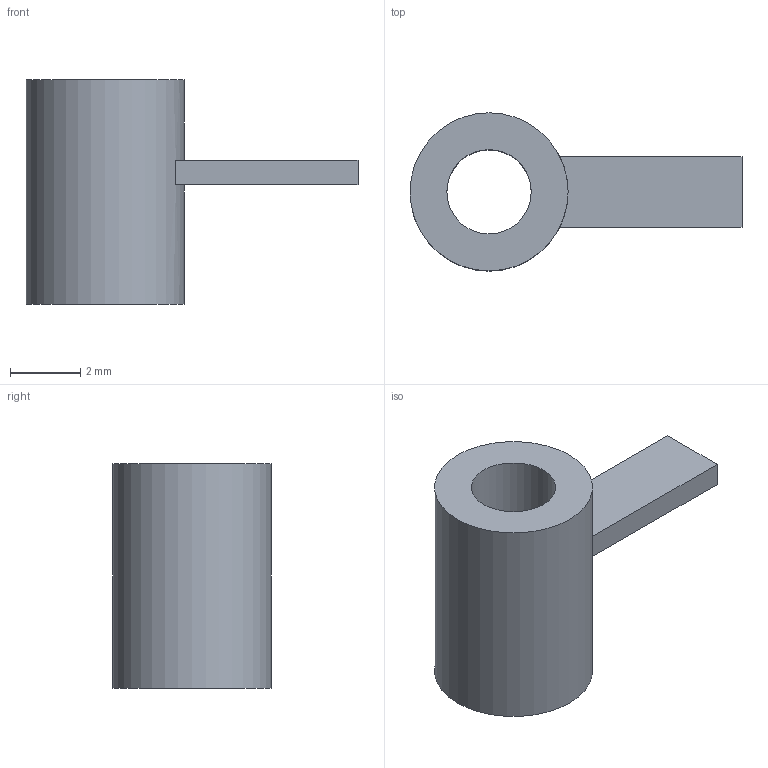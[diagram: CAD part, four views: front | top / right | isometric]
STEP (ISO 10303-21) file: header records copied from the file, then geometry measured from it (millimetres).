
FILE_DESCRIPTION(('Open CASCADE Model'),'2;1');
FILE_NAME('Display support H1','2026-11-18T13:29:44',('Author'),( 'Open CASCADE'),'Open CASCADE STEP processor 7.8','build123d', 'Unknown');
FILE_SCHEMA(('AUTOMOTIVE_DESIGN { 1 0 10303 214 1 1 1 1 }'));
Length unit declared in the file: millimetre
Products named in the file (1): Display support H1
Bounding box: 9.45 x 4.5 x 6.4 mm (x, y, z)
Volume: 79.9 mm3; surface area: 188.8 mm2
Topology: 1 solids, 1 shells, 9 faces, 21 edges, 14 vertices
Faces by surface type: plane 7, cylinder 2
Full cylindrical faces by diameter (mm): 2.4 x1, 4.5 x1
Entity records: 555 total; most frequent: CARTESIAN_POINT 91, DIRECTION 87, LINE 43, VECTOR 43, ORIENTED_EDGE 42, PCURVE 42, DEFINITIONAL_REPRESENTATION 42, EDGE_CURVE 21
